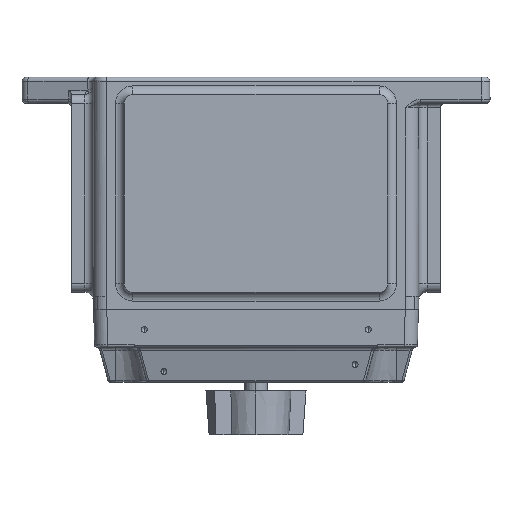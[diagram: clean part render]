
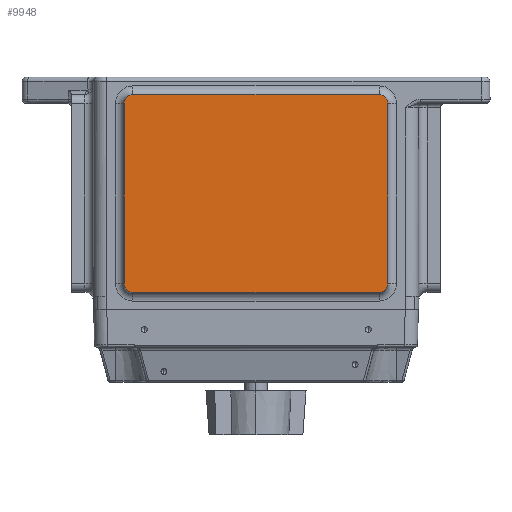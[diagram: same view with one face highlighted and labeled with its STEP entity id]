
A CAD part, front view. The second image highlights one B-rep face of the part: STEP entity #9948.
In plain terms, the highlighted planar face has unit normal (0, -1, 0) as drawn and (1, 0, 0) by its records, which use the part's own axes.
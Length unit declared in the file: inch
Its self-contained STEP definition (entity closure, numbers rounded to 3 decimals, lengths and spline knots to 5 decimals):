
#989 = VERTEX_POINT ( 'NONE', #13280 ) ;
#2420 = AXIS2_PLACEMENT_3D ( 'NONE', #26911, #34134, #11385 ) ;
#2788 = CARTESIAN_POINT ( 'NONE',  ( 1.8125, 0., 0. ) ) ;
#3009 = CARTESIAN_POINT ( 'NONE',  ( 1.8125, 1.8773, 2.9375 ) ) ;
#3311 = DIRECTION ( 'NONE',  ( 1., 0., 0. ) ) ;
#5112 = AXIS2_PLACEMENT_3D ( 'NONE', #2788, #15420, #36913 ) ;
#5489 = PLANE ( 'NONE',  #5112 ) ;
#5923 = LINE ( 'NONE', #33642, #26299 ) ;
#6662 = VERTEX_POINT ( 'NONE', #33520 ) ;
#6691 = EDGE_CURVE ( 'NONE', #8501, #10344, #22275, .T. ) ;
#8431 = CARTESIAN_POINT ( 'NONE',  ( 1.8125, -1.7523, 2.9375 ) ) ;
#8501 = VERTEX_POINT ( 'NONE', #37085 ) ;
#8763 = CARTESIAN_POINT ( 'NONE',  ( 1.8125, 1.8773, 0.375 ) ) ;
#9513 = CIRCLE ( 'NONE', #17434, 0.125 ) ;
#9741 = DIRECTION ( 'NONE',  ( 0., 0., -1. ) ) ;
#9948 = ADVANCED_FACE ( 'NONE', ( #21621 ), #5489, .F. ) ;
#10344 = VERTEX_POINT ( 'NONE', #3009 ) ;
#10812 = LINE ( 'NONE', #29442, #31313 ) ;
#11040 = AXIS2_PLACEMENT_3D ( 'NONE', #8431, #14460, #36576 ) ;
#11385 = DIRECTION ( 'NONE',  ( 0., 0., -1. ) ) ;
#11559 = DIRECTION ( 'NONE',  ( 0., 0., 1. ) ) ;
#12319 = DIRECTION ( 'NONE',  ( 0., 1., 0. ) ) ;
#13280 = CARTESIAN_POINT ( 'NONE',  ( 1.8125, -1.7523, 0.25 ) ) ;
#14440 = ORIENTED_EDGE ( 'NONE', *, *, #6691, .F. ) ;
#14460 = DIRECTION ( 'NONE',  ( -1., 0., 0. ) ) ;
#15420 = DIRECTION ( 'NONE',  ( -1., 0., 0. ) ) ;
#16151 = CARTESIAN_POINT ( 'NONE',  ( 1.8125, 1.7523, 0.375 ) ) ;
#17434 = AXIS2_PLACEMENT_3D ( 'NONE', #16151, #3311, #9741 ) ;
#17836 = CIRCLE ( 'NONE', #23124, 0.125 ) ;
#18673 = DIRECTION ( 'NONE',  ( 0., -1., 0. ) ) ;
#18977 = CIRCLE ( 'NONE', #11040, 0.125 ) ;
#18982 = ORIENTED_EDGE ( 'NONE', *, *, #22354, .F. ) ;
#20814 = EDGE_CURVE ( 'NONE', #10344, #25741, #10812, .T. ) ;
#21305 = CARTESIAN_POINT ( 'NONE',  ( 1.8125, -1.8773, 0.375 ) ) ;
#21621 = FACE_OUTER_BOUND ( 'NONE', #38791, .T. ) ;
#22275 = CIRCLE ( 'NONE', #2420, 0.125 ) ;
#22354 = EDGE_CURVE ( 'NONE', #26042, #989, #28185, .T. ) ;
#22718 = ORIENTED_EDGE ( 'NONE', *, *, #37051, .F. ) ;
#22893 = ORIENTED_EDGE ( 'NONE', *, *, #20814, .F. ) ;
#23124 = AXIS2_PLACEMENT_3D ( 'NONE', #34421, #37694, #27593 ) ;
#23221 = LINE ( 'NONE', #34109, #28184 ) ;
#23374 = EDGE_CURVE ( 'NONE', #26042, #25741, #9513, .T. ) ;
#24488 = CARTESIAN_POINT ( 'NONE',  ( 1.8125, 0., 0.25 ) ) ;
#25027 = ORIENTED_EDGE ( 'NONE', *, *, #23374, .T. ) ;
#25528 = CARTESIAN_POINT ( 'NONE',  ( 1.8125, 1.7523, 0.25 ) ) ;
#25741 = VERTEX_POINT ( 'NONE', #8763 ) ;
#26042 = VERTEX_POINT ( 'NONE', #25528 ) ;
#26115 = EDGE_CURVE ( 'NONE', #32581, #28697, #23221, .T. ) ;
#26299 = VECTOR ( 'NONE', #12319, 39.37008 ) ;
#26911 = CARTESIAN_POINT ( 'NONE',  ( 1.8125, 1.7523, 2.9375 ) ) ;
#27593 = DIRECTION ( 'NONE',  ( 0., 0., -1. ) ) ;
#28184 = VECTOR ( 'NONE', #11559, 39.37008 ) ;
#28185 = LINE ( 'NONE', #24488, #33245 ) ;
#28697 = VERTEX_POINT ( 'NONE', #38029 ) ;
#29442 = CARTESIAN_POINT ( 'NONE',  ( 1.8125, 1.8773, 0. ) ) ;
#29844 = DIRECTION ( 'NONE',  ( 0., 0., -1. ) ) ;
#31313 = VECTOR ( 'NONE', #29844, 39.37008 ) ;
#32459 = ORIENTED_EDGE ( 'NONE', *, *, #26115, .F. ) ;
#32520 = ORIENTED_EDGE ( 'NONE', *, *, #36510, .F. ) ;
#32581 = VERTEX_POINT ( 'NONE', #21305 ) ;
#33245 = VECTOR ( 'NONE', #18673, 39.37008 ) ;
#33520 = CARTESIAN_POINT ( 'NONE',  ( 1.8125, -1.7523, 3.0625 ) ) ;
#33642 = CARTESIAN_POINT ( 'NONE',  ( 1.8125, 0., 3.0625 ) ) ;
#34109 = CARTESIAN_POINT ( 'NONE',  ( 1.8125, -1.8773, 0. ) ) ;
#34134 = DIRECTION ( 'NONE',  ( -1., 0., 0. ) ) ;
#34421 = CARTESIAN_POINT ( 'NONE',  ( 1.8125, -1.7523, 0.375 ) ) ;
#34435 = ORIENTED_EDGE ( 'NONE', *, *, #40728, .T. ) ;
#36510 = EDGE_CURVE ( 'NONE', #28697, #6662, #18977, .T. ) ;
#36576 = DIRECTION ( 'NONE',  ( 0., 0., -1. ) ) ;
#36913 = DIRECTION ( 'NONE',  ( 0., 0., -1. ) ) ;
#37051 = EDGE_CURVE ( 'NONE', #6662, #8501, #5923, .T. ) ;
#37085 = CARTESIAN_POINT ( 'NONE',  ( 1.8125, 1.7523, 3.0625 ) ) ;
#37694 = DIRECTION ( 'NONE',  ( 1., 0., 0. ) ) ;
#38029 = CARTESIAN_POINT ( 'NONE',  ( 1.8125, -1.8773, 2.9375 ) ) ;
#38791 = EDGE_LOOP ( 'NONE', ( #25027, #22893, #14440, #22718, #32520, #32459, #34435, #18982 ) ) ;
#40728 = EDGE_CURVE ( 'NONE', #32581, #989, #17836, .T. ) ;
